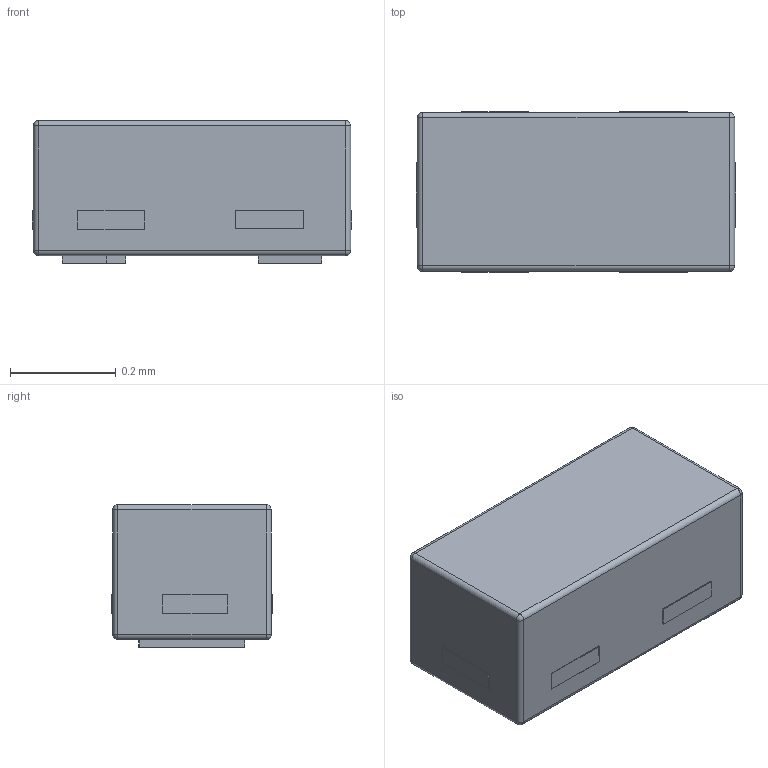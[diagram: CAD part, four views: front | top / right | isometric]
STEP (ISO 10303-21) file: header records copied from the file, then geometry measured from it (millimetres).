
FILE_DESCRIPTION(/* description */ ('Unknown'),/* implementation_level */ '2;1');
FILE_NAME(/* name */ 'SP0201B-ULC-01UTG',/* time_stamp */ '2023-03-06T10:47:29+02:00',/* author */ ('Unknown'),/* organization */ ('Unknown'),/* preprocessor_version */ 'ST-DEVELOPER v18.102',/* originating_system */ 'Solid Edge',/* authorisation */ 'Unknown');
FILE_SCHEMA (('AUTOMOTIVE_DESIGN {1 0 10303 214 3 1 1}'));
Length unit declared in the file: millimetre
Products named in the file (1): SP0201B-ULC-01UTG
Bounding box: 0.6 x 0.3 x 0.27 mm (x, y, z)
Volume: 0 mm3; surface area: 0.8 mm2
Topology: 1 solids, 1 shells, 67 faces, 155 edges, 90 vertices
Faces by surface type: plane 47, cylinder 12, sphere 8
Entity records: 2286 total; most frequent: DIRECTION 307, CARTESIAN_POINT 305, ORIENTED_EDGE 294, EDGE_CURVE 147, LINE 123, VECTOR 123, AXIS2_PLACEMENT_3D 92, VERTEX_POINT 90
